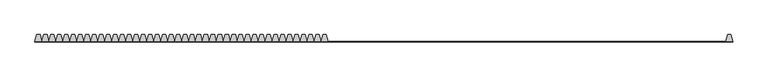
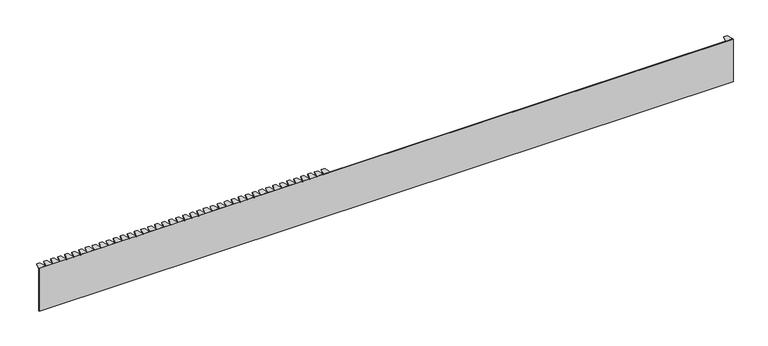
"""IFC4 building model written with IfcOpenShell, lengths in millimetres: duct fitting geometry, Частичная крышка шириной 40 мм - для кабель-канала DLP 65x195 - 2м - белый : 130мм."""

from ifc_helpers import new_model, si_unit, frame, origin, place, context, project, spatial, polyline, outline, extrude, source, transform, mapped, element, save


def duct_fitting_c295a400(model_context):
    return source(origin(), model_context, "Body", "SweptSolid", [
        extrude(outline(polyline([(-165.3589838, 20.0), (-160.0, 0.0), (-180.0, 0.0), (-174.2650923, 20.0), (-165.3589838, 20.0)])), frame((0.0, 0.0, 63.0), z_axis=(0.0, 0.0, 1.0), x_axis=(1.0, 0.0, 0.0)), (0.0, 0.0, 1.0), 2.0),
        extrude(outline(polyline([(-185.3589838, 20.0), (-180.0, 0.0), (-200.0, 0.0), (-194.2650923, 20.0), (-185.3589838, 20.0)])), frame((0.0, 0.0, 63.0), z_axis=(0.0, 0.0, 1.0), x_axis=(1.0, 0.0, 0.0)), (0.0, 0.0, 1.0), 2.0),
        extrude(outline(polyline([(-205.3589838, 20.0), (-200.0, 0.0), (-220.0, 0.0), (-214.2650923, 20.0), (-205.3589838, 20.0)])), frame((0.0, 0.0, 63.0), z_axis=(0.0, 0.0, 1.0), x_axis=(1.0, 0.0, 0.0)), (0.0, 0.0, 1.0), 2.0),
        extrude(outline(polyline([(-225.3589838, 20.0), (-220.0, 0.0), (-240.0, 0.0), (-234.2650923, 20.0), (-225.3589838, 20.0)])), frame((0.0, 0.0, 63.0), z_axis=(0.0, 0.0, 1.0), x_axis=(1.0, 0.0, 0.0)), (0.0, 0.0, 1.0), 2.0),
        extrude(outline(polyline([(-245.3589838, 20.0), (-240.0, 0.0), (-260.0, 0.0), (-254.2650923, 20.0), (-245.3589838, 20.0)])), frame((0.0, 0.0, 63.0), z_axis=(0.0, 0.0, 1.0), x_axis=(1.0, 0.0, 0.0)), (0.0, 0.0, 1.0), 2.0),
        extrude(outline(polyline([(-265.3589838, 20.0), (-260.0, 0.0), (-280.0, 0.0), (-274.2650923, 20.0), (-265.3589838, 20.0)])), frame((0.0, 0.0, 63.0), z_axis=(0.0, 0.0, 1.0), x_axis=(1.0, 0.0, 0.0)), (0.0, 0.0, 1.0), 2.0),
        extrude(outline(polyline([(-285.3589838, 20.0), (-280.0, 0.0), (-300.0, 0.0), (-294.2650923, 20.0), (-285.3589838, 20.0)])), frame((0.0, 0.0, 63.0), z_axis=(0.0, 0.0, 1.0), x_axis=(1.0, 0.0, 0.0)), (0.0, 0.0, 1.0), 2.0),
        extrude(outline(polyline([(-305.3589838, 20.0), (-300.0, 0.0), (-320.0, 0.0), (-314.2650923, 20.0), (-305.3589838, 20.0)])), frame((0.0, 0.0, 63.0), z_axis=(0.0, 0.0, 1.0), x_axis=(1.0, 0.0, 0.0)), (0.0, 0.0, 1.0), 2.0),
        extrude(outline(polyline([(-325.3589838, 20.0), (-320.0, 0.0), (-340.0, 0.0), (-334.2650923, 20.0), (-325.3589838, 20.0)])), frame((0.0, 0.0, 63.0), z_axis=(0.0, 0.0, 1.0), x_axis=(1.0, 0.0, 0.0)), (0.0, 0.0, 1.0), 2.0),
        extrude(outline(polyline([(-345.3589838, 20.0), (-340.0, 0.0), (-360.0, 0.0), (-354.2650923, 20.0), (-345.3589838, 20.0)])), frame((0.0, 0.0, 63.0), z_axis=(0.0, 0.0, 1.0), x_axis=(1.0, 0.0, 0.0)), (0.0, 0.0, 1.0), 2.0),
        extrude(outline(polyline([(-365.3589838, 20.0), (-360.0, 0.0), (-380.0, 0.0), (-374.2650923, 20.0), (-365.3589838, 20.0)])), frame((0.0, 0.0, 63.0), z_axis=(0.0, 0.0, 1.0), x_axis=(1.0, 0.0, 0.0)), (0.0, 0.0, 1.0), 2.0),
        extrude(outline(polyline([(-385.3589838, 20.0), (-380.0, 0.0), (-400.0, 0.0), (-394.2650923, 20.0), (-385.3589838, 20.0)])), frame((0.0, 0.0, 63.0), z_axis=(0.0, 0.0, 1.0), x_axis=(1.0, 0.0, 0.0)), (0.0, 0.0, 1.0), 2.0),
        extrude(outline(polyline([(-405.3589838, 20.0), (-400.0, 0.0), (-420.0, 0.0), (-414.2650923, 20.0), (-405.3589838, 20.0)])), frame((0.0, 0.0, 63.0), z_axis=(0.0, 0.0, 1.0), x_axis=(1.0, 0.0, 0.0)), (0.0, 0.0, 1.0), 2.0),
        extrude(outline(polyline([(-425.3589838, 20.0), (-420.0, 0.0), (-440.0, 0.0), (-434.2650923, 20.0), (-425.3589838, 20.0)])), frame((0.0, 0.0, 63.0), z_axis=(0.0, 0.0, 1.0), x_axis=(1.0, 0.0, 0.0)), (0.0, 0.0, 1.0), 2.0),
        extrude(outline(polyline([(-445.3589838, 20.0), (-440.0, 0.0), (-460.0, 0.0), (-454.2650923, 20.0), (-445.3589838, 20.0)])), frame((0.0, 0.0, 63.0), z_axis=(0.0, 0.0, 1.0), x_axis=(1.0, 0.0, 0.0)), (0.0, 0.0, 1.0), 2.0),
        extrude(outline(polyline([(-465.3589838, 20.0), (-460.0, 0.0), (-480.0, 0.0), (-474.2650923, 20.0), (-465.3589838, 20.0)])), frame((0.0, 0.0, 63.0), z_axis=(0.0, 0.0, 1.0), x_axis=(1.0, 0.0, 0.0)), (0.0, 0.0, 1.0), 2.0),
        extrude(outline(polyline([(-485.3589838, 20.0), (-480.0, 0.0), (-500.0, 0.0), (-494.2650923, 20.0), (-485.3589838, 20.0)])), frame((0.0, 0.0, 63.0), z_axis=(0.0, 0.0, 1.0), x_axis=(1.0, 0.0, 0.0)), (0.0, 0.0, 1.0), 2.0),
        extrude(outline(polyline([(-505.3589838, 20.0), (-500.0, 0.0), (-520.0, 0.0), (-514.2650923, 20.0), (-505.3589838, 20.0)])), frame((0.0, 0.0, 63.0), z_axis=(0.0, 0.0, 1.0), x_axis=(1.0, 0.0, 0.0)), (0.0, 0.0, 1.0), 2.0),
        extrude(outline(polyline([(-525.3589838, 20.0), (-520.0, 0.0), (-540.0, 0.0), (-534.2650923, 20.0), (-525.3589838, 20.0)])), frame((0.0, 0.0, 63.0), z_axis=(0.0, 0.0, 1.0), x_axis=(1.0, 0.0, 0.0)), (0.0, 0.0, 1.0), 2.0),
        extrude(outline(polyline([(-545.3589838, 20.0), (-540.0, 0.0), (-560.0, 0.0), (-554.2650923, 20.0), (-545.3589838, 20.0)])), frame((0.0, 0.0, 63.0), z_axis=(0.0, 0.0, 1.0), x_axis=(1.0, 0.0, 0.0)), (0.0, 0.0, 1.0), 2.0),
        extrude(outline(polyline([(-565.3589838, 20.0), (-560.0, 0.0), (-580.0, 0.0), (-574.2650923, 20.0), (-565.3589838, 20.0)])), frame((0.0, 0.0, 63.0), z_axis=(0.0, 0.0, 1.0), x_axis=(1.0, 0.0, 0.0)), (0.0, 0.0, 1.0), 2.0),
        extrude(outline(polyline([(-585.3589838, 20.0), (-580.0, 0.0), (-600.0, 0.0), (-594.2650923, 20.0), (-585.3589838, 20.0)])), frame((0.0, 0.0, 63.0), z_axis=(0.0, 0.0, 1.0), x_axis=(1.0, 0.0, 0.0)), (0.0, 0.0, 1.0), 2.0),
        extrude(outline(polyline([(-605.3589838, 20.0), (-600.0, 0.0), (-620.0, 0.0), (-614.2650923, 20.0), (-605.3589838, 20.0)])), frame((0.0, 0.0, 63.0), z_axis=(0.0, 0.0, 1.0), x_axis=(1.0, 0.0, 0.0)), (0.0, 0.0, 1.0), 2.0),
        extrude(outline(polyline([(-625.3589838, 20.0), (-620.0, 0.0), (-640.0, 0.0), (-634.2650923, 20.0), (-625.3589838, 20.0)])), frame((0.0, 0.0, 63.0), z_axis=(0.0, 0.0, 1.0), x_axis=(1.0, 0.0, 0.0)), (0.0, 0.0, 1.0), 2.0),
        extrude(outline(polyline([(-645.3589838, 20.0), (-640.0, 0.0), (-660.0, 0.0), (-654.2650923, 20.0), (-645.3589838, 20.0)])), frame((0.0, 0.0, 63.0), z_axis=(0.0, 0.0, 1.0), x_axis=(1.0, 0.0, 0.0)), (0.0, 0.0, 1.0), 2.0),
        extrude(outline(polyline([(-665.3589838, 20.0), (-660.0, 0.0), (-680.0, 0.0), (-674.2650923, 20.0), (-665.3589838, 20.0)])), frame((0.0, 0.0, 63.0), z_axis=(0.0, 0.0, 1.0), x_axis=(1.0, 0.0, 0.0)), (0.0, 0.0, 1.0), 2.0),
        extrude(outline(polyline([(-685.3589838, 20.0), (-680.0, 0.0), (-700.0, 0.0), (-694.2650923, 20.0), (-685.3589838, 20.0)])), frame((0.0, 0.0, 63.0), z_axis=(0.0, 0.0, 1.0), x_axis=(1.0, 0.0, 0.0)), (0.0, 0.0, 1.0), 2.0),
        extrude(outline(polyline([(-705.3589838, 20.0), (-700.0, 0.0), (-720.0, 0.0), (-714.2650923, 20.0), (-705.3589838, 20.0)])), frame((0.0, 0.0, 63.0), z_axis=(0.0, 0.0, 1.0), x_axis=(1.0, 0.0, 0.0)), (0.0, 0.0, 1.0), 2.0),
        extrude(outline(polyline([(-725.3589838, 20.0), (-720.0, 0.0), (-740.0, 0.0), (-734.2650923, 20.0), (-725.3589838, 20.0)])), frame((0.0, 0.0, 63.0), z_axis=(0.0, 0.0, 1.0), x_axis=(1.0, 0.0, 0.0)), (0.0, 0.0, 1.0), 2.0),
        extrude(outline(polyline([(-745.3589838, 20.0), (-740.0, 0.0), (-760.0, 0.0), (-754.2650923, 20.0), (-745.3589838, 20.0)])), frame((0.0, 0.0, 63.0), z_axis=(0.0, 0.0, 1.0), x_axis=(1.0, 0.0, 0.0)), (0.0, 0.0, 1.0), 2.0),
        extrude(outline(polyline([(-765.3589838, 20.0), (-760.0, 0.0), (-780.0, 0.0), (-774.2650923, 20.0), (-765.3589838, 20.0)])), frame((0.0, 0.0, 63.0), z_axis=(0.0, 0.0, 1.0), x_axis=(1.0, 0.0, 0.0)), (0.0, 0.0, 1.0), 2.0),
        extrude(outline(polyline([(-785.3589838, 20.0), (-780.0, 0.0), (-800.0, 0.0), (-794.2650923, 20.0), (-785.3589838, 20.0)])), frame((0.0, 0.0, 63.0), z_axis=(0.0, 0.0, 1.0), x_axis=(1.0, 0.0, 0.0)), (0.0, 0.0, 1.0), 2.0),
        extrude(outline(polyline([(-805.3589838, 20.0), (-800.0, 0.0), (-820.0, 0.0), (-814.2650923, 20.0), (-805.3589838, 20.0)])), frame((0.0, 0.0, 63.0), z_axis=(0.0, 0.0, 1.0), x_axis=(1.0, 0.0, 0.0)), (0.0, 0.0, 1.0), 2.0),
        extrude(outline(polyline([(-825.3589838, 20.0), (-820.0, 0.0), (-840.0, 0.0), (-834.2650923, 20.0), (-825.3589838, 20.0)])), frame((0.0, 0.0, 63.0), z_axis=(0.0, 0.0, 1.0), x_axis=(1.0, 0.0, 0.0)), (0.0, 0.0, 1.0), 2.0),
        extrude(outline(polyline([(-845.3589838, 20.0), (-840.0, 0.0), (-860.0, 0.0), (-854.2650923, 20.0), (-845.3589838, 20.0)])), frame((0.0, 0.0, 63.0), z_axis=(0.0, 0.0, 1.0), x_axis=(1.0, 0.0, 0.0)), (0.0, 0.0, 1.0), 2.0),
        extrude(outline(polyline([(-865.3589838, 20.0), (-860.0, 0.0), (-880.0, 0.0), (-874.2650923, 20.0), (-865.3589838, 20.0)])), frame((0.0, 0.0, 63.0), z_axis=(0.0, 0.0, 1.0), x_axis=(1.0, 0.0, 0.0)), (0.0, 0.0, 1.0), 2.0),
        extrude(outline(polyline([(-885.3589838, 20.0), (-880.0, 0.0), (-900.0, 0.0), (-894.2650923, 20.0), (-885.3589838, 20.0)])), frame((0.0, 0.0, 63.0), z_axis=(0.0, 0.0, 1.0), x_axis=(1.0, 0.0, 0.0)), (0.0, 0.0, 1.0), 2.0),
        extrude(outline(polyline([(-905.3589838, 20.0), (-900.0, 0.0), (-920.0, 0.0), (-914.2650923, 20.0), (-905.3589838, 20.0)])), frame((0.0, 0.0, 63.0), z_axis=(0.0, 0.0, 1.0), x_axis=(1.0, 0.0, 0.0)), (0.0, 0.0, 1.0), 2.0),
        extrude(outline(polyline([(-925.3589838, 20.0), (-920.0, 0.0), (-940.0, 0.0), (-934.2650923, 20.0), (-925.3589838, 20.0)])), frame((0.0, 0.0, 63.0), z_axis=(0.0, 0.0, 1.0), x_axis=(1.0, 0.0, 0.0)), (0.0, 0.0, 1.0), 2.0),
        extrude(outline(polyline([(-945.3589838, 20.0), (-940.0, 0.0), (-960.0, 0.0), (-954.2650923, 20.0), (-945.3589838, 20.0)])), frame((0.0, 0.0, 63.0), z_axis=(0.0, 0.0, 1.0), x_axis=(1.0, 0.0, 0.0)), (0.0, 0.0, 1.0), 2.0),
        extrude(outline(polyline([(-965.3589838, 20.0), (-960.0, 0.0), (-980.0, 0.0), (-974.2650923, 20.0), (-965.3589838, 20.0)])), frame((0.0, 0.0, 63.0), z_axis=(0.0, 0.0, 1.0), x_axis=(1.0, 0.0, 0.0)), (0.0, 0.0, 1.0), 2.0),
        extrude(outline(polyline([(994.6410162, 20.0), (1000.0, 0.0), (980.0, 0.0), (985.7349077, 20.0), (994.6410162, 20.0)])), frame((0.0, 0.0, 63.0), z_axis=(0.0, 0.0, 1.0), x_axis=(1.0, 0.0, 0.0)), (0.0, 0.0, 1.0), 2.0),
        extrude(outline(polyline([(-985.3589838, 20.0), (-980.0, 0.0), (-1000.0, 0.0), (-994.2650923, 20.0), (-985.3589838, 20.0)])), frame((0.0, 0.0, 63.0), z_axis=(0.0, 0.0, 1.0), x_axis=(1.0, 0.0, 0.0)), (0.0, 0.0, 1.0), 2.0),
        extrude(outline(polyline([(-1000.0, -1.0), (-1000.0, 1.0), (1000.0, 1.0), (1000.0, -1.0), (-1000.0, -1.0)])), frame((0.0, 0.0, -65.0), z_axis=(0.0, 0.0, 1.0), x_axis=(1.0, 0.0, 0.0)), (0.0, 0.0, 1.0), 130.0),
    ])


if __name__ == "__main__":
    model = new_model("IFC4")
    model_context = context("Model", 3, world=origin())
    ifc_project = project(units=[si_unit("LENGTHUNIT", "METRE", prefix="MILLI")], contexts=[model_context])
    site = spatial("IfcSite", under=ifc_project)
    building = spatial("IfcBuilding", under=site)
    placement = place(None, origin())
    duct_fitting_shape = duct_fitting_c295a400(model_context)
    element("IfcDuctFitting", 1, ObjectType="Частичная крышка шириной 40 мм - для кабель-канала DLP 65x195 - 2м - белый : 130мм", at=placement, inside=building, context=model_context, shape_type="MappedRepresentation", body=[
        mapped(duct_fitting_shape, transform((0.0, 0.0, 0.0), x_axis=(1.0, 0.0, 0.0), y_axis=(0.0, 1.0, 0.0), z_axis=(0.0, 0.0, 1.0))),
    ])
    save(model, "model.ifc")
